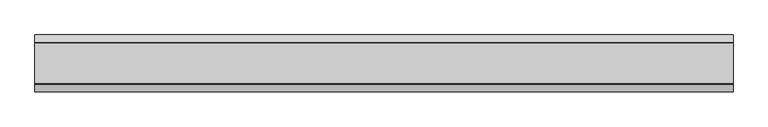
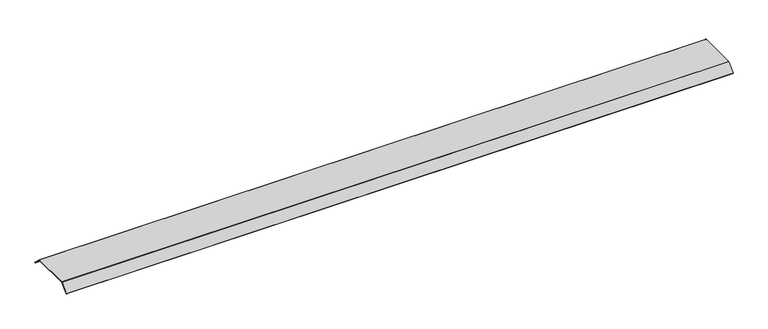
"""IFC4 building model written with IfcOpenShell, lengths in millimetres: proxy geometry, Electrical_Installation_Hager_Blank-Cover-800mm-Double-Sided-Height-70mm : Electrical_Installation_Hager_Blank-Cover-800mm-Double-Sided-Height-70mm."""

from ifc_helpers import new_model, si_unit, point, frame, frame_2d, origin, place, context, project, spatial, polyline, circle_curve, trimmed, segment, composite_curve, outline, extrude, source, transform, mapped, element, save


def electrical_fixtures_c720a4e9(model_context):
    return source(origin(), model_context, "Body", "SweptSolid", [
        extrude(outline(composite_curve([segment(trimmed(circle_curve(frame_2d((175.0, 36.5)), 4.0), [point((175.0, 40.5))], [point((177.8284271, 39.3284271))], False, "CARTESIAN"), True, "CONTINUOUS"), segment(polyline([(177.8284271, 39.3284271), (245.78408, -28.6272257), (243.6627596, -30.7485461), (175.996177, 36.9180366)]), True, "CONTINUOUS"), segment(trimmed(circle_curve(frame_2d((174.591193, 35.5130527)), 1.9869473), [point((175.996177, 36.9180366))], [point((174.591193, 37.5))], True, "CARTESIAN"), True, "CONTINUOUS"), segment(polyline([(174.591193, 37.5), (-174.8229541, 37.5)]), True, "CONTINUOUS"), segment(trimmed(circle_curve(frame_2d((-174.8229541, 36.0725733)), 1.4274267), [point((-174.8229541, 37.5))], [point((-175.8322972, 37.0819164))], True, "CARTESIAN"), True, "CONTINUOUS"), segment(polyline([(-175.8322972, 37.0819164), (-243.6627596, -30.7485461), (-245.78408, -28.6272257), (-177.8206472, 39.336207)]), True, "CONTINUOUS"), segment(trimmed(circle_curve(frame_2d((-175.0110025, 36.5265623)), 3.9734377), [point((-177.8206472, 39.336207))], [point((-175.0110025, 40.5))], False, "CARTESIAN"), True, "CONTINUOUS"), segment(polyline([(-175.0110025, 40.5), (175.0, 40.5)]), True, "CONTINUOUS")], self_intersect=False)), frame((0.0, 0.0, 0.0), z_axis=(1.0, 0.0, 0.0), x_axis=(0.0, 1.0, 0.0)), (0.0, 0.0, 1.0), 6011.6956759),
    ])


if __name__ == "__main__":
    model = new_model("IFC4")
    model_context = context("Model", 3, world=origin())
    ifc_project = project(units=[si_unit("LENGTHUNIT", "METRE", prefix="MILLI")], contexts=[model_context])
    site = spatial("IfcSite", under=ifc_project)
    building = spatial("IfcBuilding", under=site)
    placement = place(None, origin())
    electrical_fixtures_shape = electrical_fixtures_c720a4e9(model_context)
    element("IfcBuildingElementProxy", 1, Name="Electrical_Installation_Hager_Blank-Cover-800mm-Double-Sided-Height-70mm : Electrical_Installation_Hager_Blank-Cover-800mm-Double-Sided-Height-70mm", ObjectType="Electrical_Installation_Hager_Blank-Cover-800mm-Double-Sided-Height-70mm : Electrical_Installation_Hager_Blank-Cover-800mm-Double-Sided-Height-70mm", at=placement, inside=building, context=model_context, shape_type="MappedRepresentation", body=[
        mapped(electrical_fixtures_shape, transform((0.0, 0.0, 0.0), x_axis=(1.0, 0.0, 0.0), y_axis=(0.0, 1.0, 0.0), z_axis=(0.0, 0.0, 1.0))),
    ])
    save(model, "model.ifc")
